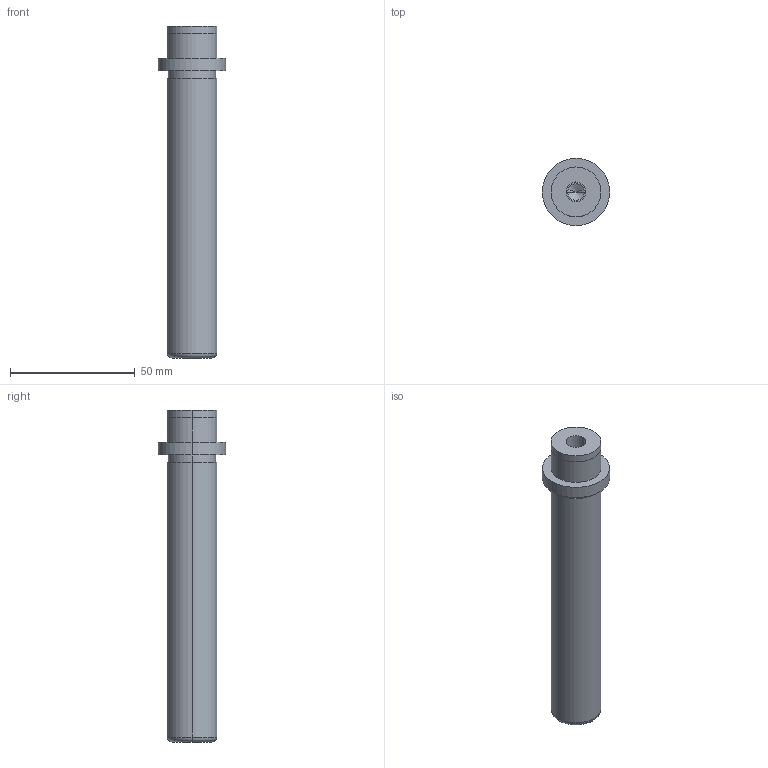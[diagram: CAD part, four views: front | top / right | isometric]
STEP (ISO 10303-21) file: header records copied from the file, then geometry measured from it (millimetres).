
FILE_DESCRIPTION(/* description */ (''),/* implementation_level */ '2;1');
FILE_NAME(/* name */ '3d_sgpw20-120_05256_r00.stp',/* time_stamp */ '2011-01-10T14:11:04+09:00',/* author */ ('MISUMI'),/* organization */ (''),/* preprocessor_version */ 'ST-DEVELOPER v11',/* originating_system */ 'UGS - NX 5.0',/* authorisation */ '');
FILE_SCHEMA (('CONFIG_CONTROL_DESIGN'));
Length unit declared in the file: millimetre
Products named in the file (1): 3d_sgpw20-120_05256_r00
Bounding box: 27 x 27 x 133 mm (x, y, z)
Volume: 40929.4 mm3; surface area: 10609.3 mm2
Topology: 1 solids, 1 shells, 31 faces, 64 edges, 38 vertices
Faces by surface type: cylinder 18, plane 7, cone 4, torus 2
Entity records: 890 total; most frequent: DIRECTION 162, CARTESIAN_POINT 130, ORIENTED_EDGE 120, AXIS2_PLACEMENT_3D 70, EDGE_CURVE 60, EDGE_LOOP 38, CIRCLE 38, VERTEX_POINT 38
